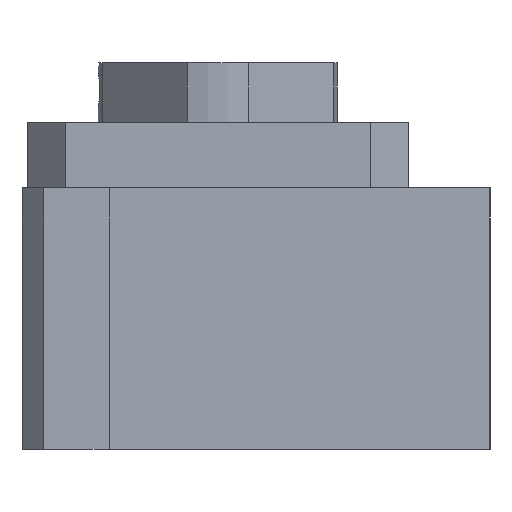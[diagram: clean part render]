
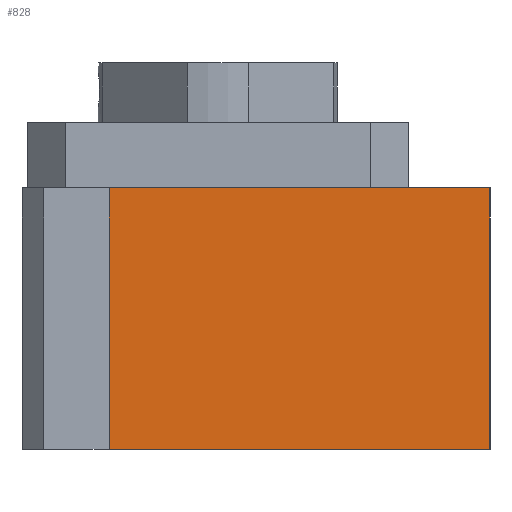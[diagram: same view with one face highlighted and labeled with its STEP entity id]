
A CAD part, left-side view. The second image highlights one B-rep face of the part: STEP entity #828.
In plain terms, the highlighted planar face has unit normal (-1, 0, 0).
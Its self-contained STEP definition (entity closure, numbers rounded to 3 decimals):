
#30=LINE($,#1352,#100);
#73=LINE($,#1490,#143);
#74=LINE($,#1492,#144);
#75=LINE($,#1493,#145);
#100=VECTOR($,#970,35.);
#143=VECTOR($,#1119,24.);
#144=VECTOR($,#1120,35.);
#145=VECTOR($,#1121,24.);
#187=FACE_OUTER_BOUND($,#323,.T.);
#323=EDGE_LOOP($,(#707,#708,#709,#710));
#394=VERTEX_POINT($,#1349);
#395=VERTEX_POINT($,#1351);
#437=VERTEX_POINT($,#1489);
#438=VERTEX_POINT($,#1491);
#474=EDGE_CURVE($,#395,#394,#30,.T.);
#535=EDGE_CURVE($,#394,#437,#73,.T.);
#536=EDGE_CURVE($,#438,#437,#74,.T.);
#537=EDGE_CURVE($,#395,#438,#75,.T.);
#707=ORIENTED_EDGE($,*,*,#474,.T.);
#708=ORIENTED_EDGE($,*,*,#535,.T.);
#709=ORIENTED_EDGE($,*,*,#536,.F.);
#710=ORIENTED_EDGE($,*,*,#537,.F.);
#779=PLANE($,#908);
#828=ADVANCED_FACE($,(#187),#779,.T.);
#908=AXIS2_PLACEMENT_3D($,#1488,#1117,#1118);
#970=DIRECTION($,(0.,-1.,0.));
#1117=DIRECTION('center_axis',(-1.,0.,0.));
#1118=DIRECTION('ref_axis',(0.,-1.,0.));
#1119=DIRECTION($,(0.,0.,1.));
#1120=DIRECTION($,(0.,-1.,0.));
#1121=DIRECTION($,(0.,0.,1.));
#1349=CARTESIAN_POINT('',(0.,0.,0.));
#1351=CARTESIAN_POINT('',(0.,35.,0.));
#1352=CARTESIAN_POINT($,(0.,35.,0.));
#1488=CARTESIAN_POINT('Origin',(0.,35.,0.));
#1489=CARTESIAN_POINT('',(0.,0.,24.));
#1490=CARTESIAN_POINT($,(0.,0.,0.));
#1491=CARTESIAN_POINT('',(0.,35.,24.));
#1492=CARTESIAN_POINT($,(0.,35.,24.));
#1493=CARTESIAN_POINT($,(0.,35.,0.));
